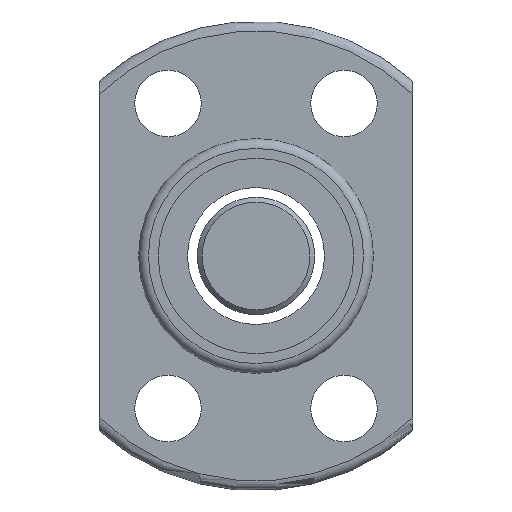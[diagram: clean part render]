
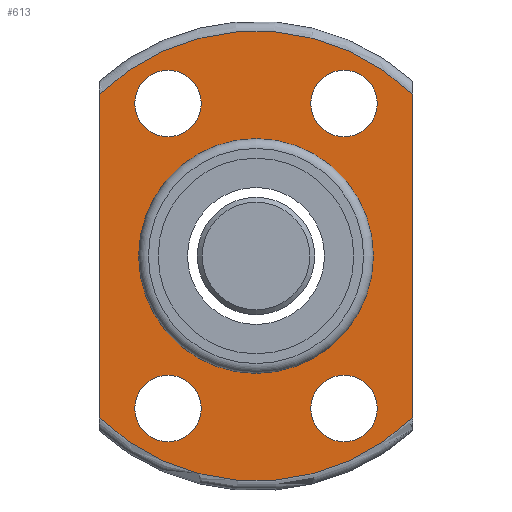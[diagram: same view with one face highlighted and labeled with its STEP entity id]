
A CAD part, left-side view. The second image highlights one B-rep face of the part: STEP entity #613.
In plain terms, the highlighted planar face has unit normal (-1, 0, 0).
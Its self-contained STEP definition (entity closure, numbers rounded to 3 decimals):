
#2 = DIRECTION ( 'NONE',  ( 1., 0., 0. ) ) ;
#9 = CIRCLE ( 'NONE', #612, 1.7 ) ;
#20 = EDGE_LOOP ( 'NONE', ( #705 ) ) ;
#51 = ORIENTED_EDGE ( 'NONE', *, *, #443, .T. ) ;
#73 = DIRECTION ( 'NONE',  ( 0., 0., -1. ) ) ;
#79 = CARTESIAN_POINT ( 'NONE',  ( -8.5, -4.5, 7.794 ) ) ;
#91 = ORIENTED_EDGE ( 'NONE', *, *, #873, .F. ) ;
#103 = FACE_OUTER_BOUND ( 'NONE', #267, .T. ) ;
#117 = VERTEX_POINT ( 'NONE', #296 ) ;
#121 = DIRECTION ( 'NONE',  ( 1., 0., 0. ) ) ;
#123 = VERTEX_POINT ( 'NONE', #157 ) ;
#148 = DIRECTION ( 'NONE',  ( 1., 0., 0. ) ) ;
#153 = VERTEX_POINT ( 'NONE', #374 ) ;
#157 = CARTESIAN_POINT ( 'NONE',  ( -8.5, -8., 8.261 ) ) ;
#162 = AXIS2_PLACEMENT_3D ( 'NONE', #841, #198, #474 ) ;
#174 = PLANE ( 'NONE',  #435 ) ;
#189 = AXIS2_PLACEMENT_3D ( 'NONE', #293, #148, #857 ) ;
#198 = DIRECTION ( 'NONE',  ( 1., 0., 0. ) ) ;
#199 = EDGE_LOOP ( 'NONE', ( #352 ) ) ;
#210 = VERTEX_POINT ( 'NONE', #579 ) ;
#213 = LINE ( 'NONE', #573, #326 ) ;
#220 = LINE ( 'NONE', #505, #308 ) ;
#223 = VERTEX_POINT ( 'NONE', #580 ) ;
#238 = VERTEX_POINT ( 'NONE', #606 ) ;
#244 = CARTESIAN_POINT ( 'NONE',  ( -8.5, -4.5, 6.094 ) ) ;
#265 = VERTEX_POINT ( 'NONE', #568 ) ;
#267 = EDGE_LOOP ( 'NONE', ( #451, #413, #91, #833 ) ) ;
#291 = DIRECTION ( 'NONE',  ( 0., 0., -1. ) ) ;
#293 = CARTESIAN_POINT ( 'NONE',  ( -8.5, 0., 0. ) ) ;
#296 = CARTESIAN_POINT ( 'NONE',  ( -8.5, 8., -8.261 ) ) ;
#308 = VECTOR ( 'NONE', #73, 1000. ) ;
#315 = VERTEX_POINT ( 'NONE', #244 ) ;
#319 = EDGE_CURVE ( 'NONE', #123, #210, #213, .T. ) ;
#321 = FACE_BOUND ( 'NONE', #389, .T. ) ;
#325 = AXIS2_PLACEMENT_3D ( 'NONE', #381, #513, #737 ) ;
#326 = VECTOR ( 'NONE', #494, 1000. ) ;
#345 = DIRECTION ( 'NONE',  ( 1., 0., 0. ) ) ;
#352 = ORIENTED_EDGE ( 'NONE', *, *, #510, .T. ) ;
#374 = CARTESIAN_POINT ( 'NONE',  ( -8.5, 0., -6. ) ) ;
#375 = EDGE_LOOP ( 'NONE', ( #623 ) ) ;
#381 = CARTESIAN_POINT ( 'NONE',  ( -8.5, 4.5, -7.794 ) ) ;
#389 = EDGE_LOOP ( 'NONE', ( #51 ) ) ;
#392 = EDGE_CURVE ( 'NONE', #265, #123, #640, .T. ) ;
#396 = DIRECTION ( 'NONE',  ( 1., 0., 0. ) ) ;
#400 = FACE_BOUND ( 'NONE', #199, .T. ) ;
#413 = ORIENTED_EDGE ( 'NONE', *, *, #848, .T. ) ;
#435 = AXIS2_PLACEMENT_3D ( 'NONE', #895, #396, #682 ) ;
#443 = EDGE_CURVE ( 'NONE', #223, #223, #714, .T. ) ;
#451 = ORIENTED_EDGE ( 'NONE', *, *, #392, .F. ) ;
#471 = DIRECTION ( 'NONE',  ( 0., 0., -1. ) ) ;
#474 = DIRECTION ( 'NONE',  ( 0., 0., -1. ) ) ;
#494 = DIRECTION ( 'NONE',  ( 0., 0., -1. ) ) ;
#505 = CARTESIAN_POINT ( 'NONE',  ( -8.5, 8., 0. ) ) ;
#510 = EDGE_CURVE ( 'NONE', #153, #153, #520, .T. ) ;
#513 = DIRECTION ( 'NONE',  ( 1., 0., 0. ) ) ;
#520 = CIRCLE ( 'NONE', #686, 6. ) ;
#526 = EDGE_LOOP ( 'NONE', ( #676 ) ) ;
#535 = DIRECTION ( 'NONE',  ( 1., 0., 0. ) ) ;
#546 = FACE_BOUND ( 'NONE', #20, .T. ) ;
#567 = CARTESIAN_POINT ( 'NONE',  ( -8.5, 0., 0. ) ) ;
#568 = CARTESIAN_POINT ( 'NONE',  ( -8.5, 8., 8.261 ) ) ;
#573 = CARTESIAN_POINT ( 'NONE',  ( -8.5, -8., 0. ) ) ;
#579 = CARTESIAN_POINT ( 'NONE',  ( -8.5, -8., -8.261 ) ) ;
#580 = CARTESIAN_POINT ( 'NONE',  ( -8.5, 4.5, 6.094 ) ) ;
#590 = CIRCLE ( 'NONE', #189, 11.5 ) ;
#597 = VERTEX_POINT ( 'NONE', #894 ) ;
#606 = CARTESIAN_POINT ( 'NONE',  ( -8.5, 4.5, -9.494 ) ) ;
#612 = AXIS2_PLACEMENT_3D ( 'NONE', #693, #535, #471 ) ;
#613 = ADVANCED_FACE ( 'NONE', ( #546, #819, #767, #321, #400, #103 ), #174, .F. ) ;
#623 = ORIENTED_EDGE ( 'NONE', *, *, #915, .T. ) ;
#640 = CIRCLE ( 'NONE', #162, 11.5 ) ;
#648 = DIRECTION ( 'NONE',  ( 0., 0., -1. ) ) ;
#660 = EDGE_CURVE ( 'NONE', #597, #597, #9, .T. ) ;
#676 = ORIENTED_EDGE ( 'NONE', *, *, #660, .T. ) ;
#682 = DIRECTION ( 'NONE',  ( 0., 1., 0. ) ) ;
#686 = AXIS2_PLACEMENT_3D ( 'NONE', #567, #345, #291 ) ;
#691 = DIRECTION ( 'NONE',  ( 0., 0., -1. ) ) ;
#693 = CARTESIAN_POINT ( 'NONE',  ( -8.5, -4.5, -7.794 ) ) ;
#705 = ORIENTED_EDGE ( 'NONE', *, *, #780, .T. ) ;
#706 = AXIS2_PLACEMENT_3D ( 'NONE', #79, #2, #648 ) ;
#714 = CIRCLE ( 'NONE', #729, 1.7 ) ;
#729 = AXIS2_PLACEMENT_3D ( 'NONE', #773, #121, #691 ) ;
#737 = DIRECTION ( 'NONE',  ( 0., 0., -1. ) ) ;
#759 = CIRCLE ( 'NONE', #706, 1.7 ) ;
#767 = FACE_BOUND ( 'NONE', #375, .T. ) ;
#773 = CARTESIAN_POINT ( 'NONE',  ( -8.5, 4.5, 7.794 ) ) ;
#780 = EDGE_CURVE ( 'NONE', #238, #238, #897, .T. ) ;
#819 = FACE_BOUND ( 'NONE', #526, .T. ) ;
#833 = ORIENTED_EDGE ( 'NONE', *, *, #319, .F. ) ;
#841 = CARTESIAN_POINT ( 'NONE',  ( -8.5, 0., 0. ) ) ;
#848 = EDGE_CURVE ( 'NONE', #265, #117, #220, .T. ) ;
#857 = DIRECTION ( 'NONE',  ( 0., 0., -1. ) ) ;
#873 = EDGE_CURVE ( 'NONE', #210, #117, #590, .T. ) ;
#894 = CARTESIAN_POINT ( 'NONE',  ( -8.5, -4.5, -9.494 ) ) ;
#895 = CARTESIAN_POINT ( 'NONE',  ( -8.5, 8.75, 0. ) ) ;
#897 = CIRCLE ( 'NONE', #325, 1.7 ) ;
#915 = EDGE_CURVE ( 'NONE', #315, #315, #759, .T. ) ;
